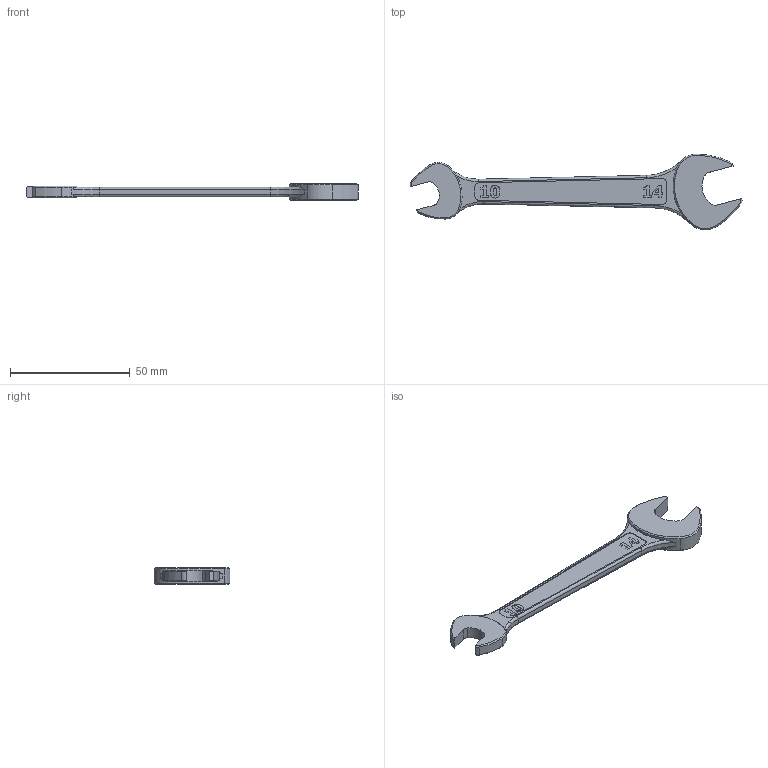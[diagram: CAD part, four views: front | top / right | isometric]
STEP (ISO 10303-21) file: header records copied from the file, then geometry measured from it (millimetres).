
FILE_DESCRIPTION(/* description */ (''),/* implementation_level */ '2;1');
FILE_NAME(/* name */ 'C:\Users\D\Documents\Inventor\各種小物\JIS\02-分解工具\両口スパナ\投稿用\10-14.stp',/* time_stamp */ '2022-04-20T16:30:47+09:00',/* author */ ('D'),/* organization */ (''),/* preprocessor_version */ 'ST-DEVELOPER v18',/* originating_system */ 'Autodesk Inventor 2020',/* authorisation */ '');
FILE_SCHEMA (('AUTOMOTIVE_DESIGN { 1 0 10303 214 3 1 1 }'));
Length unit declared in the file: millimetre
Products named in the file (1): 17-19
Bounding box: 138.38 x 31.52 x 7 mm (x, y, z)
Volume: 9102.7 mm3; surface area: 5518.1 mm2
Topology: 1 solids, 1 shells, 143 faces, 366 edges, 232 vertices
Faces by surface type: plane 57, cylinder 34, cone 28, bspline 16, torus 8
Entity records: 4532 total; most frequent: CARTESIAN_POINT 1065, ORIENTED_EDGE 732, DIRECTION 688, EDGE_CURVE 366, AXIS2_PLACEMENT_3D 236, VERTEX_POINT 232, LINE 216, VECTOR 216
